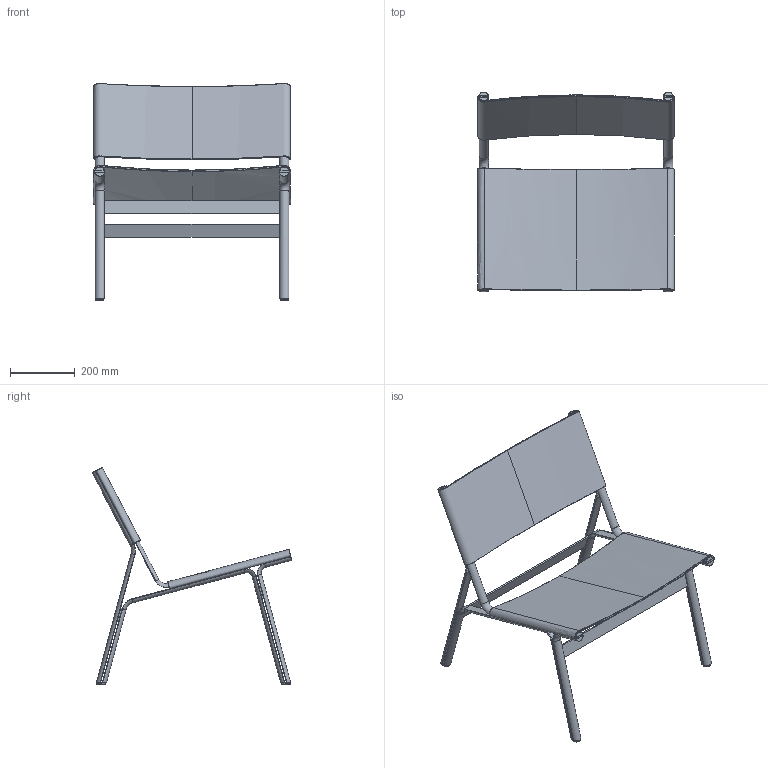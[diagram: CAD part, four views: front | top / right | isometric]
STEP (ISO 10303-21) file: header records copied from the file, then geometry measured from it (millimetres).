
FILE_DESCRIPTION(/* description */ (''),/* implementation_level */ '2;1');
FILE_NAME(/* name */ '251107_Union Easy chair without detail v2.step',/* time_stamp */ '2025-11-07T16:43:58+01:00',/* author */ (''),/* organization */ (''),/* preprocessor_version */ 'ST-DEVELOPER v20.1',/* originating_system */ 'Autodesk Translation Framework v14.17.0.0',/* authorisation */ '');
FILE_SCHEMA (('AUTOMOTIVE_DESIGN { 1 0 10303 214 3 1 1 }'));
Length unit declared in the file: millimetre
Products named in the file (17): Lounge_chair_for_issue; back_seat_part; seat_part (1); central_brace; front_leg; seat_part; horizontal_brace_front; back_leg; horizontal_brace_back; central_brace(Mirror); front_leg(Mirror); seat_part(Mirror); back_leg(Mirror); foot_75 (2); foot_75 (3); foot_75 (2) (1); foot_75 (1)
Assembly tree (16 placements, depth 2):
  Lounge_chair_for_issue
    back_seat_part
    seat_part (1)
    central_brace
    front_leg
    seat_part
    horizontal_brace_front
    back_leg
    horizontal_brace_back
    central_brace(Mirror)
    front_leg(Mirror)
    seat_part(Mirror)
    back_leg(Mirror)
    foot_75 (2)
    foot_75 (3)
    foot_75 (2) (1)
    foot_75 (1)
Bounding box: 609.57 x 617.69 x 671.04 mm (x, y, z)
Volume: 4142282.5 mm3; surface area: 1432443.5 mm2
Topology: 16 solids, 16 shells, 296 faces, 632 edges, 367 vertices
Faces by surface type: bspline 120, cylinder 72, plane 66, torus 38
Entity records: 20913 total; most frequent: CARTESIAN_POINT 14469, ORIENTED_EDGE 1262, DIRECTION 1201, EDGE_CURVE 631, AXIS2_PLACEMENT_3D 493, VERTEX_POINT 367, FACE_OUTER_BOUND 296, EDGE_LOOP 296
